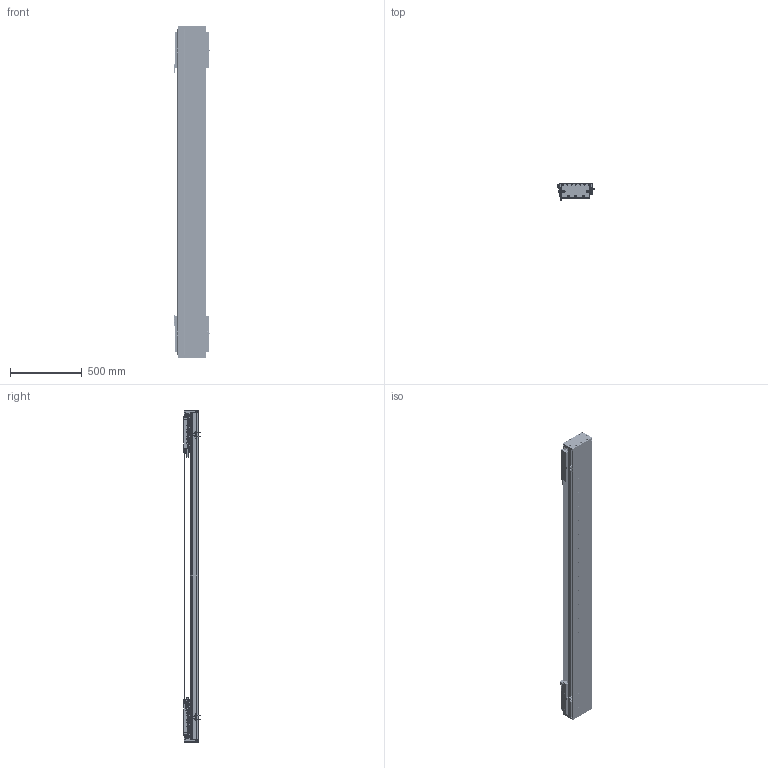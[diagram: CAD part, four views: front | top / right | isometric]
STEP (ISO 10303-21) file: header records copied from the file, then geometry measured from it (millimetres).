
FILE_DESCRIPTION (( 'STEP AP203' ), '1' );
FILE_NAME ('DA-C195-2-C3-T1700-C010-0.2 眻盄萇儂.STEP', '2025-08-15T00:43:11', ( '' ), ( '' ), 'SwSTEP 2.0', 'SolidWorks 2019', '' );
FILE_SCHEMA (( 'CONFIG_CONTROL_DESIGN' ));
Length unit declared in the file: millimetre
Products named in the file (19): DA195詩湍郪璃; DA195詩湍菜輸; CU195-C3賑輸-俋楷; IU-CU195-L 菁釱絳寢; LMT黍杅芛; DA165-GYP-00 光电感应片(默认); DA195詩湍裔啣; 葩璃 DA95-GT-T-00; DA-C195-2-C3-T1700-C010-0.2 眻盄萇儂; PM-Y65嫖萇羲壽郪璃; DA195詩湍嶺輸; PM-T45ㄗ侂狟ㄘ; DKW-GYP-ZJ-00 笢潔嫖萇覜茼え; MS200 棠掑喜S315-T240; DA95-HXJ-00 遣喳砎蝶; DKW-KGZ-ZJ-00 中间光电开关支架; IU-CU195-L-00 菁釱(L2280); DA-C195-GD-DB-H-00 傷啣; DKW168-HXJ-ZJ-00 笢潔滅袉砎蝶
Assembly tree (37 placements, depth 3):
  DA-C195-2-C3-T1700-C010-0.2 眻盄萇儂
    DA195詩湍郪璃
      DA195詩湍菜輸  x2
      DA195詩湍裔啣
      DA195詩湍嶺輸  x2
      DA95-HXJ-00 遣喳砎蝶  x8
      DA-C195-GD-DB-H-00 傷啣  x2
    IU-CU195-L 菁釱絳寢
      IU-CU195-L-00 菁釱(L2280)
      葩璃 DA95-GT-T-00  x4
    LMT黍杅芛  x2
    MS200 棠掑喜S315-T240
    PM-T45ㄗ侂狟ㄘ  x4
    DA165-GYP-00 光电感应片(默认)  x2
    PM-Y65嫖萇羲壽郪璃
    DKW168-HXJ-ZJ-00 笢潔滅袉砎蝶
    DKW-GYP-ZJ-00 笢潔嫖萇覜茼え
    DKW-KGZ-ZJ-00 中间光电开关支架
    CU195-C3賑輸-俋楷  x2
Bounding box: 258.2 x 115.45 x 2320 mm (x, y, z)
Volume: 15514268.4 mm3; surface area: 4410326.7 mm2
Topology: 154 solids, 218 shells, 6759 faces, 17919 edges, 11141 vertices
Faces by surface type: cylinder 3162, plane 2545, cone 884, torus 88, sphere 72, bspline 8
Entity records: 142833 total; most frequent: CARTESIAN_POINT 37209, ORIENTED_EDGE 21854, DIRECTION 21160, EDGE_CURVE 10927, AXIS2_PLACEMENT_3D 7777, VERTEX_POINT 7066, LINE 5606, VECTOR 5606
